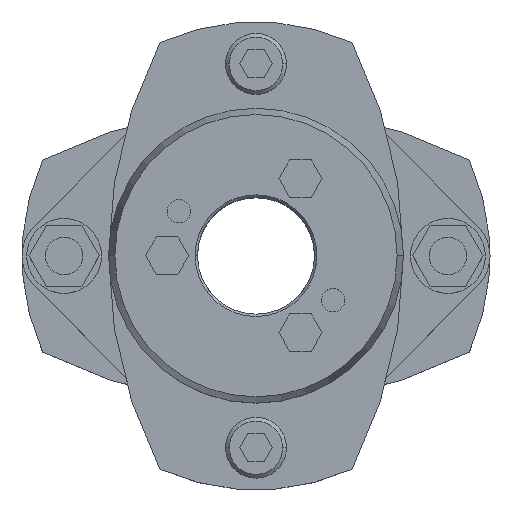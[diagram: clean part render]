
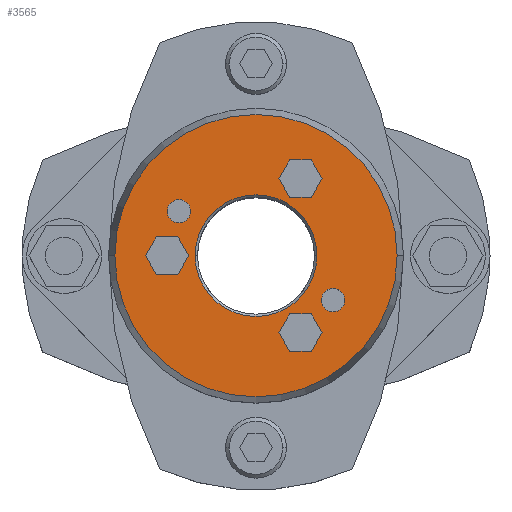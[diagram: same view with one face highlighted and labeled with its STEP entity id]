
A CAD part, top view. The second image highlights one B-rep face of the part: STEP entity #3565.
In plain terms, the highlighted planar face has unit normal (0, 0, 1).
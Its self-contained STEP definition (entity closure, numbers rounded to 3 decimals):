
#1471=CARTESIAN_POINT('',(-13.,0.,42.0));
#1472=VERTEX_POINT('',#1471);
#1488=CARTESIAN_POINT('',(13.,0.,42.0));
#1489=VERTEX_POINT('',#1488);
#1496=CARTESIAN_POINT('',(0.,0.,42.0));
#1497=DIRECTION('',(0.0,0.0,1.0));
#1498=DIRECTION('',(-1.0,0.0,0.0));
#1499=AXIS2_PLACEMENT_3D('',#1496,#1497,#1498);
#1500=CIRCLE('',#1499,13.0);
#1501=EDGE_CURVE('',#1489,#1472,#1500,.T.);
#1659=CARTESIAN_POINT('',(30.16,0.,42.0));
#1660=VERTEX_POINT('',#1659);
#1667=CARTESIAN_POINT('',(-30.16,0.,42.0));
#1668=VERTEX_POINT('',#1667);
#1669=CARTESIAN_POINT('',(0.,0.,42.0));
#1670=DIRECTION('',(0.0,0.0,-1.0));
#1671=DIRECTION('',(1.0,0.0,0.0));
#1672=AXIS2_PLACEMENT_3D('',#1669,#1670,#1671);
#1673=CIRCLE('',#1672,30.16);
#1674=EDGE_CURVE('',#1660,#1668,#1673,.T.);
#1769=CARTESIAN_POINT('',(-18.954,9.5,42.0));
#1770=VERTEX_POINT('',#1769);
#1786=CARTESIAN_POINT('',(-13.954,9.5,42.0));
#1787=VERTEX_POINT('',#1786);
#1794=CARTESIAN_POINT('',(-16.454,9.5,42.0));
#1795=DIRECTION('',(0.0,0.0,-1.0));
#1796=DIRECTION('',(-1.0,0.0,0.0));
#1797=AXIS2_PLACEMENT_3D('',#1794,#1795,#1796);
#1798=CIRCLE('',#1797,2.5);
#1799=EDGE_CURVE('',#1770,#1787,#1798,.T.);
#1811=CARTESIAN_POINT('',(13.954,-9.5,42.0));
#1812=VERTEX_POINT('',#1811);
#1828=CARTESIAN_POINT('',(18.954,-9.5,42.0));
#1829=VERTEX_POINT('',#1828);
#1836=CARTESIAN_POINT('',(16.454,-9.5,42.0));
#1837=DIRECTION('',(0.0,0.0,-1.0));
#1838=DIRECTION('',(-1.0,0.0,0.0));
#1839=AXIS2_PLACEMENT_3D('',#1836,#1837,#1838);
#1840=CIRCLE('',#1839,2.5);
#1841=EDGE_CURVE('',#1812,#1829,#1840,.T.);
#2592=CARTESIAN_POINT('',(16.454,-9.5,42.0));
#2593=DIRECTION('',(0.0,0.0,-1.0));
#2594=DIRECTION('',(-1.0,0.0,0.0));
#2595=AXIS2_PLACEMENT_3D('',#2592,#2593,#2594);
#2596=CIRCLE('',#2595,2.5);
#2597=EDGE_CURVE('',#1829,#1812,#2596,.T.);
#2626=CARTESIAN_POINT('',(-16.454,9.5,42.0));
#2627=DIRECTION('',(0.0,0.0,-1.0));
#2628=DIRECTION('',(-1.0,0.0,0.0));
#2629=AXIS2_PLACEMENT_3D('',#2626,#2627,#2628);
#2630=CIRCLE('',#2629,2.5);
#2631=EDGE_CURVE('',#1787,#1770,#2630,.T.);
#2669=CARTESIAN_POINT('',(-23.619,0.,42.0));
#2670=VERTEX_POINT('',#2669);
#2677=CARTESIAN_POINT('',(-21.309,-4.,42.0));
#2678=VERTEX_POINT('',#2677);
#2679=CARTESIAN_POINT('',(-21.309,-4.,42.0));
#2680=DIRECTION('',(-0.5,0.866,0.0));
#2681=VECTOR('',#2680,4.619);
#2682=LINE('',#2679,#2681);
#2683=EDGE_CURVE('',#2678,#2670,#2682,.T.);
#2707=CARTESIAN_POINT('',(-21.309,4.,42.0));
#2708=VERTEX_POINT('',#2707);
#2715=CARTESIAN_POINT('',(-23.619,0.,42.0));
#2716=DIRECTION('',(0.5,0.866,0.0));
#2717=VECTOR('',#2716,4.619);
#2718=LINE('',#2715,#2717);
#2719=EDGE_CURVE('',#2670,#2708,#2718,.T.);
#2738=CARTESIAN_POINT('',(-16.691,4.,42.0));
#2739=VERTEX_POINT('',#2738);
#2746=CARTESIAN_POINT('',(-21.309,4.,42.0));
#2747=DIRECTION('',(1.0,0.0,0.0));
#2748=VECTOR('',#2747,4.619);
#2749=LINE('',#2746,#2748);
#2750=EDGE_CURVE('',#2708,#2739,#2749,.T.);
#2769=CARTESIAN_POINT('',(-14.381,0.,42.0));
#2770=VERTEX_POINT('',#2769);
#2777=CARTESIAN_POINT('',(-16.691,4.,42.0));
#2778=DIRECTION('',(0.5,-0.866,0.0));
#2779=VECTOR('',#2778,4.619);
#2780=LINE('',#2777,#2779);
#2781=EDGE_CURVE('',#2739,#2770,#2780,.T.);
#2800=CARTESIAN_POINT('',(-16.691,-4.,42.0));
#2801=VERTEX_POINT('',#2800);
#2808=CARTESIAN_POINT('',(-14.381,0.,42.0));
#2809=DIRECTION('',(-0.5,-0.866,0.0));
#2810=VECTOR('',#2809,4.619);
#2811=LINE('',#2808,#2810);
#2812=EDGE_CURVE('',#2770,#2801,#2811,.T.);
#2830=CARTESIAN_POINT('',(-16.691,-4.,42.0));
#2831=DIRECTION('',(-1.0,0.0,0.0));
#2832=VECTOR('',#2831,4.619);
#2833=LINE('',#2830,#2832);
#2834=EDGE_CURVE('',#2801,#2678,#2833,.T.);
#2869=CARTESIAN_POINT('',(4.881,16.454,42.0));
#2870=VERTEX_POINT('',#2869);
#2877=CARTESIAN_POINT('',(7.191,12.454,42.0));
#2878=VERTEX_POINT('',#2877);
#2879=CARTESIAN_POINT('',(7.191,12.454,42.0));
#2880=DIRECTION('',(-0.5,0.866,0.0));
#2881=VECTOR('',#2880,4.619);
#2882=LINE('',#2879,#2881);
#2883=EDGE_CURVE('',#2878,#2870,#2882,.T.);
#2907=CARTESIAN_POINT('',(7.191,20.454,42.0));
#2908=VERTEX_POINT('',#2907);
#2915=CARTESIAN_POINT('',(4.881,16.454,42.0));
#2916=DIRECTION('',(0.5,0.866,0.0));
#2917=VECTOR('',#2916,4.619);
#2918=LINE('',#2915,#2917);
#2919=EDGE_CURVE('',#2870,#2908,#2918,.T.);
#2938=CARTESIAN_POINT('',(11.809,20.454,42.0));
#2939=VERTEX_POINT('',#2938);
#2946=CARTESIAN_POINT('',(7.191,20.454,42.0));
#2947=DIRECTION('',(1.0,0.0,0.0));
#2948=VECTOR('',#2947,4.619);
#2949=LINE('',#2946,#2948);
#2950=EDGE_CURVE('',#2908,#2939,#2949,.T.);
#2969=CARTESIAN_POINT('',(14.119,16.454,42.0));
#2970=VERTEX_POINT('',#2969);
#2977=CARTESIAN_POINT('',(11.809,20.454,42.0));
#2978=DIRECTION('',(0.5,-0.866,0.0));
#2979=VECTOR('',#2978,4.619);
#2980=LINE('',#2977,#2979);
#2981=EDGE_CURVE('',#2939,#2970,#2980,.T.);
#3000=CARTESIAN_POINT('',(11.809,12.454,42.0));
#3001=VERTEX_POINT('',#3000);
#3008=CARTESIAN_POINT('',(14.119,16.454,42.0));
#3009=DIRECTION('',(-0.5,-0.866,0.0));
#3010=VECTOR('',#3009,4.619);
#3011=LINE('',#3008,#3010);
#3012=EDGE_CURVE('',#2970,#3001,#3011,.T.);
#3030=CARTESIAN_POINT('',(11.809,12.454,42.0));
#3031=DIRECTION('',(-1.0,0.0,0.0));
#3032=VECTOR('',#3031,4.619);
#3033=LINE('',#3030,#3032);
#3034=EDGE_CURVE('',#3001,#2878,#3033,.T.);
#3069=CARTESIAN_POINT('',(4.881,-16.454,42.0));
#3070=VERTEX_POINT('',#3069);
#3077=CARTESIAN_POINT('',(7.191,-20.454,42.0));
#3078=VERTEX_POINT('',#3077);
#3079=CARTESIAN_POINT('',(7.191,-20.454,42.0));
#3080=DIRECTION('',(-0.5,0.866,0.0));
#3081=VECTOR('',#3080,4.619);
#3082=LINE('',#3079,#3081);
#3083=EDGE_CURVE('',#3078,#3070,#3082,.T.);
#3107=CARTESIAN_POINT('',(7.191,-12.454,42.0));
#3108=VERTEX_POINT('',#3107);
#3115=CARTESIAN_POINT('',(4.881,-16.454,42.0));
#3116=DIRECTION('',(0.5,0.866,0.0));
#3117=VECTOR('',#3116,4.619);
#3118=LINE('',#3115,#3117);
#3119=EDGE_CURVE('',#3070,#3108,#3118,.T.);
#3138=CARTESIAN_POINT('',(11.809,-12.454,42.0));
#3139=VERTEX_POINT('',#3138);
#3146=CARTESIAN_POINT('',(7.191,-12.454,42.0));
#3147=DIRECTION('',(1.0,0.0,0.0));
#3148=VECTOR('',#3147,4.619);
#3149=LINE('',#3146,#3148);
#3150=EDGE_CURVE('',#3108,#3139,#3149,.T.);
#3169=CARTESIAN_POINT('',(14.119,-16.454,42.0));
#3170=VERTEX_POINT('',#3169);
#3177=CARTESIAN_POINT('',(11.809,-12.454,42.0));
#3178=DIRECTION('',(0.5,-0.866,0.0));
#3179=VECTOR('',#3178,4.619);
#3180=LINE('',#3177,#3179);
#3181=EDGE_CURVE('',#3139,#3170,#3180,.T.);
#3200=CARTESIAN_POINT('',(11.809,-20.454,42.0));
#3201=VERTEX_POINT('',#3200);
#3208=CARTESIAN_POINT('',(14.119,-16.454,42.0));
#3209=DIRECTION('',(-0.5,-0.866,0.0));
#3210=VECTOR('',#3209,4.619);
#3211=LINE('',#3208,#3210);
#3212=EDGE_CURVE('',#3170,#3201,#3211,.T.);
#3230=CARTESIAN_POINT('',(11.809,-20.454,42.0));
#3231=DIRECTION('',(-1.0,0.0,0.0));
#3232=VECTOR('',#3231,4.619);
#3233=LINE('',#3230,#3232);
#3234=EDGE_CURVE('',#3201,#3078,#3233,.T.);
#3504=CARTESIAN_POINT('',(0.,0.,42.0));
#3505=DIRECTION('',(0.0,0.0,-1.0));
#3506=DIRECTION('',(1.0,0.0,0.0));
#3507=AXIS2_PLACEMENT_3D('',#3504,#3505,#3506);
#3508=CIRCLE('',#3507,30.16);
#3509=EDGE_CURVE('',#1668,#1660,#3508,.T.);
#3514=CARTESIAN_POINT('',(-2.864,0.,42.0));
#3515=DIRECTION('',(0.0,0.0,1.0));
#3516=DIRECTION('',(-1.0,0.0,0.0));
#3517=AXIS2_PLACEMENT_3D('',#3514,#3515,#3516);
#3518=PLANE('',#3517);
#3519=ORIENTED_EDGE('',*,*,#3509,.F.);
#3520=ORIENTED_EDGE('',*,*,#1674,.F.);
#3521=EDGE_LOOP('',(#3519,#3520));
#3522=FACE_OUTER_BOUND('',#3521,.T.);
#3523=ORIENTED_EDGE('',*,*,#1841,.T.);
#3524=ORIENTED_EDGE('',*,*,#2597,.T.);
#3525=EDGE_LOOP('',(#3523,#3524));
#3526=FACE_BOUND('',#3525,.T.);
#3527=ORIENTED_EDGE('',*,*,#1799,.T.);
#3528=ORIENTED_EDGE('',*,*,#2631,.T.);
#3529=EDGE_LOOP('',(#3527,#3528));
#3530=FACE_BOUND('',#3529,.T.);
#3531=ORIENTED_EDGE('',*,*,#2683,.T.);
#3532=ORIENTED_EDGE('',*,*,#2719,.T.);
#3533=ORIENTED_EDGE('',*,*,#2750,.T.);
#3534=ORIENTED_EDGE('',*,*,#2781,.T.);
#3535=ORIENTED_EDGE('',*,*,#2812,.T.);
#3536=ORIENTED_EDGE('',*,*,#2834,.T.);
#3537=EDGE_LOOP('',(#3531,#3532,#3533,#3534,#3535,#3536));
#3538=FACE_BOUND('',#3537,.T.);
#3539=ORIENTED_EDGE('',*,*,#2883,.T.);
#3540=ORIENTED_EDGE('',*,*,#2919,.T.);
#3541=ORIENTED_EDGE('',*,*,#2950,.T.);
#3542=ORIENTED_EDGE('',*,*,#2981,.T.);
#3543=ORIENTED_EDGE('',*,*,#3012,.T.);
#3544=ORIENTED_EDGE('',*,*,#3034,.T.);
#3545=EDGE_LOOP('',(#3539,#3540,#3541,#3542,#3543,#3544));
#3546=FACE_BOUND('',#3545,.T.);
#3547=ORIENTED_EDGE('',*,*,#3083,.T.);
#3548=ORIENTED_EDGE('',*,*,#3119,.T.);
#3549=ORIENTED_EDGE('',*,*,#3150,.T.);
#3550=ORIENTED_EDGE('',*,*,#3181,.T.);
#3551=ORIENTED_EDGE('',*,*,#3212,.T.);
#3552=ORIENTED_EDGE('',*,*,#3234,.T.);
#3553=EDGE_LOOP('',(#3547,#3548,#3549,#3550,#3551,#3552));
#3554=FACE_BOUND('',#3553,.T.);
#3555=ORIENTED_EDGE('',*,*,#1501,.F.);
#3556=CARTESIAN_POINT('',(0.,0.,42.0));
#3557=DIRECTION('',(0.0,0.0,1.0));
#3558=DIRECTION('',(-1.0,0.0,0.0));
#3559=AXIS2_PLACEMENT_3D('',#3556,#3557,#3558);
#3560=CIRCLE('',#3559,13.0);
#3561=EDGE_CURVE('',#1472,#1489,#3560,.T.);
#3562=ORIENTED_EDGE('',*,*,#3561,.F.);
#3563=EDGE_LOOP('',(#3555,#3562));
#3564=FACE_BOUND('',#3563,.T.);
#3565=ADVANCED_FACE('',(#3522,#3526,#3530,#3538,#3546,#3554,#3564),#3518,.T.);
